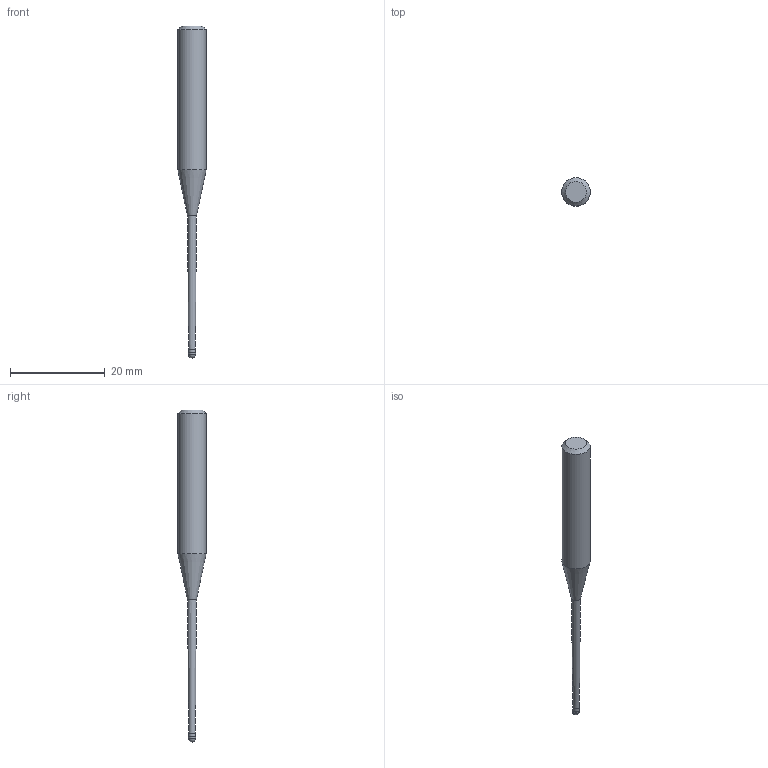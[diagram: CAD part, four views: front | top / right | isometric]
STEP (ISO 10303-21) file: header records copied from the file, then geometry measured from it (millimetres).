
FILE_DESCRIPTION((''),'2;1');
FILE_NAME('C:\Users\nsx150\AppData\Local\Temp\Mastercam 2021\E0ENTZRV18\TEMP.step','2021-09-02T09:56:24',(''),(''),'STEP Write','Mastercam 2021 ... CNC Software, Inc.','');
FILE_SCHEMA(('AUTOMOTIVE_DESIGN'));
Length unit declared in the file: millimetre
Products named in the file (1): None
Bounding box: 6 x 6 x 70 mm (x, y, z)
Volume: 1044.5 mm3; surface area: 870.4 mm2
Topology: 2 solids, 2 shells, 10 faces, 16 edges, 9 vertices
Faces by surface type: plane 3, cylinder 3, cone 3, sphere 1
Full cylindrical faces by diameter (mm): 1.39 x1, 1.5 x1, 6 x1
Entity records: 232 total; most frequent: DIRECTION 40, CARTESIAN_POINT 28, AXIS2_PLACEMENT_3D 20, ORIENTED_EDGE 16, EDGE_LOOP 16, STYLED_ITEM 13, ADVANCED_FACE 10, FACE_BOUND 9
